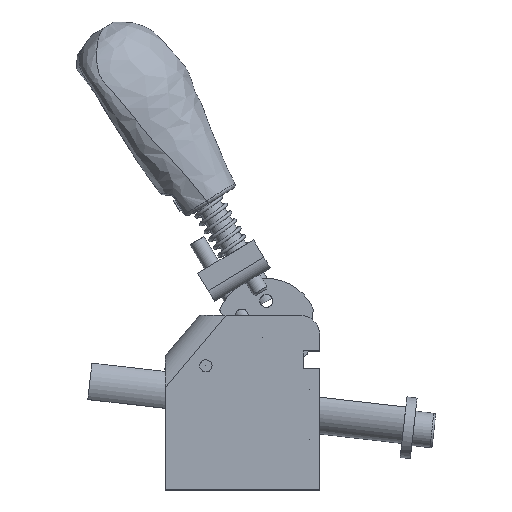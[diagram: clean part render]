
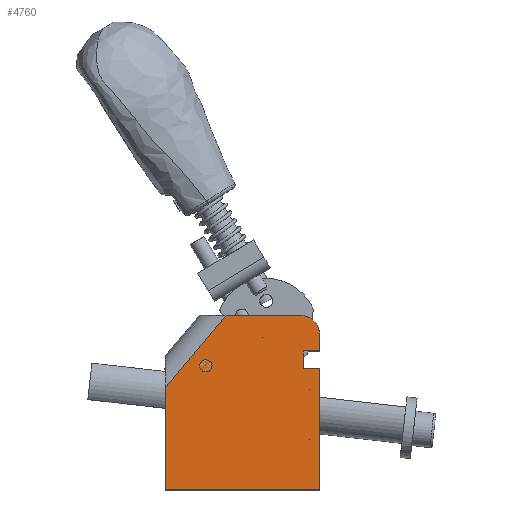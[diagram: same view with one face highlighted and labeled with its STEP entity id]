
A CAD part, top view. The second image highlights one B-rep face of the part: STEP entity #4760.
In plain terms, the highlighted planar face has unit normal (0, 0, 1).
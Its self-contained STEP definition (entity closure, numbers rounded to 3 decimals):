
#373=FACE_BOUND('',#929,.T.);
#374=FACE_BOUND('',#930,.T.);
#375=FACE_BOUND('',#931,.T.);
#376=FACE_BOUND('',#932,.T.);
#438=CIRCLE('',#5272,5.);
#439=CIRCLE('',#5273,0.005);
#440=CIRCLE('',#5274,0.005);
#441=CIRCLE('',#5275,0.005);
#442=CIRCLE('',#5276,0.005);
#664=FACE_OUTER_BOUND('',#928,.T.);
#928=EDGE_LOOP('',(#3218,#3219,#3220,#3221,#3222,#3223,#3224,#3225,#3226,
#3227));
#929=EDGE_LOOP('',(#3228));
#930=EDGE_LOOP('',(#3229));
#931=EDGE_LOOP('',(#3230));
#932=EDGE_LOOP('',(#3231));
#1257=LINE('',#7147,#1629);
#1266=LINE('',#7165,#1638);
#1269=LINE('',#7171,#1641);
#1271=LINE('',#7175,#1643);
#1272=LINE('',#7179,#1644);
#1273=LINE('',#7181,#1645);
#1274=LINE('',#7183,#1646);
#1275=LINE('',#7185,#1647);
#1276=LINE('',#7186,#1648);
#1629=VECTOR('',#5775,10.);
#1638=VECTOR('',#5790,10.);
#1641=VECTOR('',#5795,10.);
#1643=VECTOR('',#5799,10.);
#1644=VECTOR('',#5802,10.);
#1645=VECTOR('',#5803,10.);
#1646=VECTOR('',#5804,10.);
#1647=VECTOR('',#5805,10.);
#1648=VECTOR('',#5806,10.);
#2001=VERTEX_POINT('',#7144);
#2002=VERTEX_POINT('',#7146);
#2008=VERTEX_POINT('',#7164);
#2010=VERTEX_POINT('',#7170);
#2011=VERTEX_POINT('',#7174);
#2012=VERTEX_POINT('',#7176);
#2013=VERTEX_POINT('',#7178);
#2014=VERTEX_POINT('',#7180);
#2015=VERTEX_POINT('',#7182);
#2016=VERTEX_POINT('',#7184);
#2017=VERTEX_POINT('',#7187);
#2018=VERTEX_POINT('',#7189);
#2019=VERTEX_POINT('',#7191);
#2020=VERTEX_POINT('',#7193);
#2484=EDGE_CURVE('',#2002,#2001,#1257,.T.);
#2493=EDGE_CURVE('',#2008,#2002,#1266,.T.);
#2496=EDGE_CURVE('',#2010,#2008,#1269,.T.);
#2498=EDGE_CURVE('',#2011,#2001,#1271,.T.);
#2499=EDGE_CURVE('',#2012,#2011,#438,.T.);
#2500=EDGE_CURVE('',#2013,#2012,#1272,.T.);
#2501=EDGE_CURVE('',#2014,#2013,#1273,.T.);
#2502=EDGE_CURVE('',#2015,#2014,#1274,.T.);
#2503=EDGE_CURVE('',#2016,#2015,#1275,.T.);
#2504=EDGE_CURVE('',#2010,#2016,#1276,.T.);
#2505=EDGE_CURVE('',#2017,#2017,#439,.T.);
#2506=EDGE_CURVE('',#2018,#2018,#440,.T.);
#2507=EDGE_CURVE('',#2019,#2019,#441,.T.);
#2508=EDGE_CURVE('',#2020,#2020,#442,.T.);
#3218=ORIENTED_EDGE('',*,*,#2496,.T.);
#3219=ORIENTED_EDGE('',*,*,#2493,.T.);
#3220=ORIENTED_EDGE('',*,*,#2484,.T.);
#3221=ORIENTED_EDGE('',*,*,#2498,.F.);
#3222=ORIENTED_EDGE('',*,*,#2499,.F.);
#3223=ORIENTED_EDGE('',*,*,#2500,.F.);
#3224=ORIENTED_EDGE('',*,*,#2501,.F.);
#3225=ORIENTED_EDGE('',*,*,#2502,.F.);
#3226=ORIENTED_EDGE('',*,*,#2503,.F.);
#3227=ORIENTED_EDGE('',*,*,#2504,.F.);
#3228=ORIENTED_EDGE('',*,*,#2505,.T.);
#3229=ORIENTED_EDGE('',*,*,#2506,.T.);
#3230=ORIENTED_EDGE('',*,*,#2507,.T.);
#3231=ORIENTED_EDGE('',*,*,#2508,.T.);
#4632=PLANE('',#5271);
#4760=ADVANCED_FACE('',(#664,#373,#374,#375,#376),#4632,.T.);
#5271=AXIS2_PLACEMENT_3D('',#7173,#5797,#5798);
#5272=AXIS2_PLACEMENT_3D('',#7177,#5800,#5801);
#5273=AXIS2_PLACEMENT_3D('',#7188,#5807,#5808);
#5274=AXIS2_PLACEMENT_3D('',#7190,#5809,#5810);
#5275=AXIS2_PLACEMENT_3D('',#7192,#5811,#5812);
#5276=AXIS2_PLACEMENT_3D('',#7194,#5813,#5814);
#5775=DIRECTION('',(1.,0.,0.));
#5790=DIRECTION('',(0.,1.,0.));
#5795=DIRECTION('',(-1.,0.,0.));
#5797=DIRECTION('center_axis',(0.,0.,1.));
#5798=DIRECTION('ref_axis',(1.,0.,0.));
#5799=DIRECTION('',(0.,-1.,0.));
#5800=DIRECTION('center_axis',(0.,0.,-1.));
#5801=DIRECTION('ref_axis',(1.,0.,0.));
#5802=DIRECTION('',(1.,0.,0.));
#5803=DIRECTION('',(0.643,0.766,0.));
#5804=DIRECTION('',(0.,1.,0.));
#5805=DIRECTION('',(-1.,0.,0.));
#5806=DIRECTION('',(0.,-1.,0.));
#5807=DIRECTION('center_axis',(0.,0.,-1.));
#5808=DIRECTION('ref_axis',(-1.,0.,0.));
#5809=DIRECTION('center_axis',(0.,0.,-1.));
#5810=DIRECTION('ref_axis',(-1.,0.,0.));
#5811=DIRECTION('center_axis',(0.,0.,-1.));
#5812=DIRECTION('ref_axis',(-1.,0.,0.));
#5813=DIRECTION('center_axis',(0.,0.,-1.));
#5814=DIRECTION('ref_axis',(-1.,0.,0.));
#7144=CARTESIAN_POINT('',(30.23,35.335,20.));
#7146=CARTESIAN_POINT('',(26.23,35.335,20.));
#7147=CARTESIAN_POINT('',(20.982,35.335,20.));
#7164=CARTESIAN_POINT('',(26.23,30.935,20.));
#7165=CARTESIAN_POINT('',(26.23,28.407,20.));
#7170=CARTESIAN_POINT('',(30.23,30.935,20.));
#7171=CARTESIAN_POINT('',(18.982,30.935,20.));
#7173=CARTESIAN_POINT('Origin',(11.734,21.48,20.));
#7174=CARTESIAN_POINT('',(30.23,39.135,20.));
#7175=CARTESIAN_POINT('',(30.23,1.135,20.));
#7176=CARTESIAN_POINT('',(25.23,44.135,20.));
#7177=CARTESIAN_POINT('Origin',(25.23,39.135,20.));
#7178=CARTESIAN_POINT('',(7.148,44.135,20.));
#7179=CARTESIAN_POINT('',(25.23,44.135,20.));
#7180=CARTESIAN_POINT('',(-7.77,26.356,20.));
#7181=CARTESIAN_POINT('',(-3.026,32.01,20.));
#7182=CARTESIAN_POINT('',(-7.77,1.135,20.));
#7183=CARTESIAN_POINT('',(-7.77,34.135,20.));
#7184=CARTESIAN_POINT('',(30.23,1.135,20.));
#7185=CARTESIAN_POINT('',(-7.77,1.135,20.));
#7186=CARTESIAN_POINT('',(30.23,1.135,20.));
#7187=CARTESIAN_POINT('',(16.035,38.635,20.));
#7188=CARTESIAN_POINT('Origin',(16.03,38.635,20.));
#7189=CARTESIAN_POINT('',(27.735,25.735,20.));
#7190=CARTESIAN_POINT('Origin',(27.73,25.735,20.));
#7191=CARTESIAN_POINT('',(2.205,31.655,20.));
#7192=CARTESIAN_POINT('Origin',(2.2,31.655,20.));
#7193=CARTESIAN_POINT('',(27.735,13.535,20.));
#7194=CARTESIAN_POINT('Origin',(27.73,13.535,20.));
